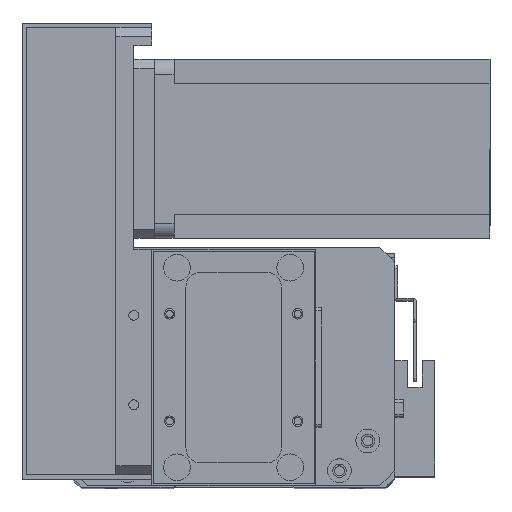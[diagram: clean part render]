
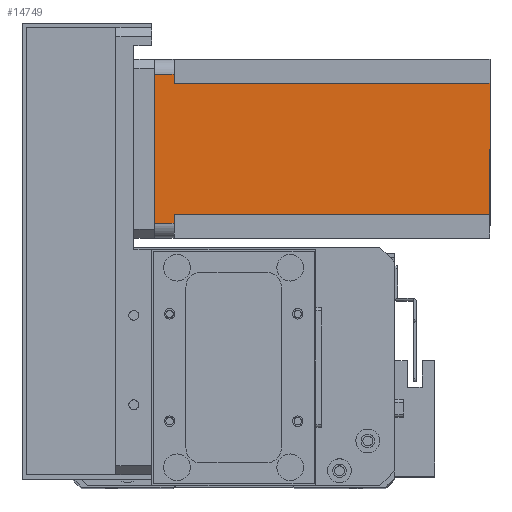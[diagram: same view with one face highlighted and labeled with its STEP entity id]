
A CAD part, top view. The second image highlights one B-rep face of the part: STEP entity #14749.
In plain terms, the highlighted planar face has unit normal (0, 0, 1) as drawn and (0, -1, 0) by its records, which use the part's own axes.
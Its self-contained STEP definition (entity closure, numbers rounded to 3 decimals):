
#163 = ORIENTED_EDGE ( 'NONE', *, *, #5292, .T. ) ;
#1405 = PLANE ( 'NONE',  #27294 ) ;
#1547 = CARTESIAN_POINT ( 'NONE',  ( 55., 0., -6.5 ) ) ;
#1701 = CARTESIAN_POINT ( 'NONE',  ( 8., 0., -112.5 ) ) ;
#2142 = CARTESIAN_POINT ( 'NONE',  ( 5., 0., -6.5 ) ) ;
#2564 = DIRECTION ( 'NONE',  ( 0., 0., -1. ) ) ;
#2605 = CARTESIAN_POINT ( 'NONE',  ( 52., 0., -112.5 ) ) ;
#2840 = VECTOR ( 'NONE', #3169, 1000. ) ;
#3021 = DIRECTION ( 'NONE',  ( 1., 0., 0. ) ) ;
#3169 = DIRECTION ( 'NONE',  ( 0., 0., 1. ) ) ;
#3328 = DIRECTION ( 'NONE',  ( -1., 0., 0. ) ) ;
#3404 = CARTESIAN_POINT ( 'NONE',  ( 0., 0., -112.5 ) ) ;
#3458 = CARTESIAN_POINT ( 'NONE',  ( 8., 0., -6.5 ) ) ;
#3581 = CARTESIAN_POINT ( 'NONE',  ( 8., 0., -112.5 ) ) ;
#3641 = DIRECTION ( 'NONE',  ( 0., -1., 0. ) ) ;
#3795 = CARTESIAN_POINT ( 'NONE',  ( 52., 0., -6.5 ) ) ;
#4108 = DIRECTION ( 'NONE',  ( 0., 0., -1. ) ) ;
#4474 = CARTESIAN_POINT ( 'NONE',  ( 5., 0., -112.5 ) ) ;
#4570 = CARTESIAN_POINT ( 'NONE',  ( 55., 0., -112.5 ) ) ;
#4606 = VERTEX_POINT ( 'NONE', #8706 ) ;
#4668 = DIRECTION ( 'NONE',  ( 0., 0., 1. ) ) ;
#4779 = EDGE_CURVE ( 'NONE', #20725, #4606, #19123, .T. ) ;
#4809 = DIRECTION ( 'NONE',  ( 1., 0., 0. ) ) ;
#4905 = VECTOR ( 'NONE', #4108, 1000. ) ;
#5254 = EDGE_CURVE ( 'NONE', #24406, #13987, #5644, .T. ) ;
#5288 = EDGE_CURVE ( 'NONE', #13987, #4606, #27634, .T. ) ;
#5292 = EDGE_CURVE ( 'NONE', #20725, #7560, #28278, .T. ) ;
#5340 = CARTESIAN_POINT ( 'NONE',  ( 52., 0., -6.5 ) ) ;
#5345 = EDGE_CURVE ( 'NONE', #18934, #7560, #9683, .T. ) ;
#5354 = EDGE_CURVE ( 'NONE', #10590, #18934, #26973, .T. ) ;
#5360 = EDGE_CURVE ( 'NONE', #10590, #12059, #15045, .T. ) ;
#5392 = EDGE_CURVE ( 'NONE', #24406, #12059, #25667, .T. ) ;
#5644 = LINE ( 'NONE', #5340, #11129 ) ;
#6052 = ORIENTED_EDGE ( 'NONE', *, *, #5288, .T. ) ;
#6925 = CARTESIAN_POINT ( 'NONE',  ( 0., 0., 0. ) ) ;
#7118 = DIRECTION ( 'NONE',  ( 1., 0., 0. ) ) ;
#7162 = VECTOR ( 'NONE', #7118, 1000. ) ;
#7560 = VERTEX_POINT ( 'NONE', #2142 ) ;
#8706 = CARTESIAN_POINT ( 'NONE',  ( 55., 0., 0. ) ) ;
#8941 = VECTOR ( 'NONE', #2564, 1000. ) ;
#9683 = LINE ( 'NONE', #3458, #20737 ) ;
#10410 = VECTOR ( 'NONE', #4668, 1000. ) ;
#10583 = EDGE_LOOP ( 'NONE', ( #14303, #6052, #24226, #163, #19203, #19692, #20606, #16556 ) ) ;
#10590 = VERTEX_POINT ( 'NONE', #1701 ) ;
#11129 = VECTOR ( 'NONE', #4809, 1000. ) ;
#12059 = VERTEX_POINT ( 'NONE', #26517 ) ;
#13987 = VERTEX_POINT ( 'NONE', #1547 ) ;
#14303 = ORIENTED_EDGE ( 'NONE', *, *, #5254, .T. ) ;
#14749 = ADVANCED_FACE ( 'NONE', ( #17669 ), #1405, .T. ) ;
#15045 = LINE ( 'NONE', #3404, #20071 ) ;
#16556 = ORIENTED_EDGE ( 'NONE', *, *, #5392, .F. ) ;
#17251 = CARTESIAN_POINT ( 'NONE',  ( 5., 0., 0. ) ) ;
#17295 = CARTESIAN_POINT ( 'NONE',  ( 0., 0., -112.5 ) ) ;
#17669 = FACE_OUTER_BOUND ( 'NONE', #10583, .T. ) ;
#18934 = VERTEX_POINT ( 'NONE', #19209 ) ;
#19123 = LINE ( 'NONE', #6925, #7162 ) ;
#19203 = ORIENTED_EDGE ( 'NONE', *, *, #5345, .F. ) ;
#19209 = CARTESIAN_POINT ( 'NONE',  ( 8., 0., -6.5 ) ) ;
#19431 = DIRECTION ( 'NONE',  ( 0., 0., -1. ) ) ;
#19692 = ORIENTED_EDGE ( 'NONE', *, *, #5354, .F. ) ;
#20071 = VECTOR ( 'NONE', #3021, 1000. ) ;
#20606 = ORIENTED_EDGE ( 'NONE', *, *, #5360, .T. ) ;
#20725 = VERTEX_POINT ( 'NONE', #17251 ) ;
#20737 = VECTOR ( 'NONE', #3328, 1000. ) ;
#24226 = ORIENTED_EDGE ( 'NONE', *, *, #4779, .F. ) ;
#24406 = VERTEX_POINT ( 'NONE', #3795 ) ;
#25667 = LINE ( 'NONE', #2605, #8941 ) ;
#26517 = CARTESIAN_POINT ( 'NONE',  ( 52., 0., -112.5 ) ) ;
#26973 = LINE ( 'NONE', #3581, #2840 ) ;
#27294 = AXIS2_PLACEMENT_3D ( 'NONE', #17295, #3641, #19431 ) ;
#27634 = LINE ( 'NONE', #4570, #10410 ) ;
#28278 = LINE ( 'NONE', #4474, #4905 ) ;
